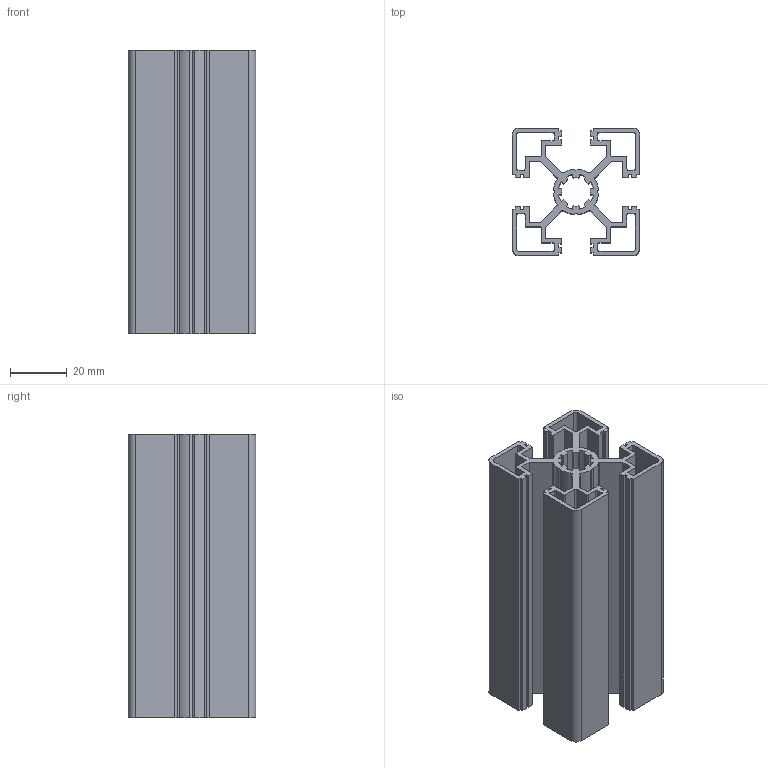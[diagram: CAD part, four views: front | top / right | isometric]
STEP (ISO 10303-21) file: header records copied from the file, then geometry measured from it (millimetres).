
FILE_DESCRIPTION((''),'2;1');
FILE_NAME('E:\catalogue and flyer\Profile catalogue 2015\profile-step file,31MAr16\PS4545L-10.stp','2016-03-31T14:15:14',('h029'),(''),'Autodesk Inventor 11','Autodesk Inventor 11','');
FILE_SCHEMA(('AUTOMOTIVE_DESIGN { 1 0 10303 214 1 1 1 1 }'));
Length unit declared in the file: millimetre
Products named in the file (1): ps4545L-10
Bounding box: 45 x 45 x 100 mm (x, y, z)
Volume: 56112.6 mm3; surface area: 65693.2 mm2
Topology: 1 solids, 1 shells, 214 faces, 636 edges, 424 vertices
Faces by surface type: plane 146, cylinder 68
Entity records: 7199 total; most frequent: CARTESIAN_POINT 1275, ORIENTED_EDGE 1272, DIRECTION 1202, EDGE_CURVE 636, VECTOR 500, LINE 500, VERTEX_POINT 424, AXIS2_PLACEMENT_3D 351
